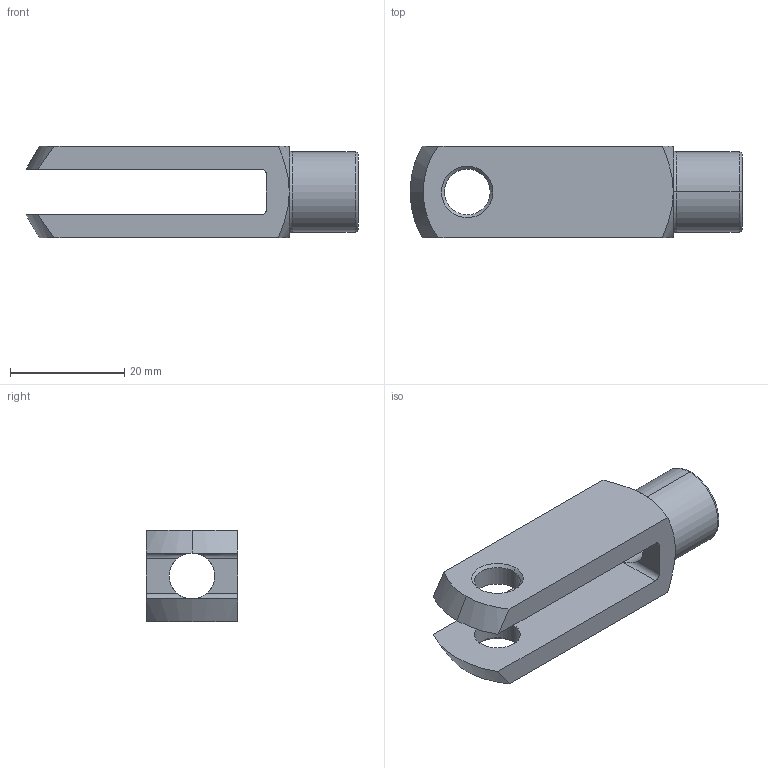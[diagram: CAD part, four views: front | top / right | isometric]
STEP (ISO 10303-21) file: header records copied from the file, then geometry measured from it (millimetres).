
FILE_DESCRIPTION (( 'STEP AP203' ), '1' );
FILE_NAME ('65636.W0083.step', '2014-01-17T13:11:49', ( 'User' ), ( '' ), 'SwSTEP 2.0', 'SolidWorks 2009', '' );
FILE_SCHEMA (( 'CONFIG_CONTROL_DESIGN' ));
Length unit declared in the file: millimetre
Products named in the file (1): 65636.W0083
Bounding box: 58 x 16 x 16 mm (x, y, z)
Volume: 6758.8 mm3; surface area: 4720 mm2
Topology: 1 solids, 1 shells, 39 faces, 93 edges, 56 vertices
Faces by surface type: cone 13, cylinder 12, plane 10, torus 4
Entity records: 1288 total; most frequent: CARTESIAN_POINT 293, DIRECTION 201, ORIENTED_EDGE 186, EDGE_CURVE 93, AXIS2_PLACEMENT_3D 84, VERTEX_POINT 56, EDGE_LOOP 45, CIRCLE 44
